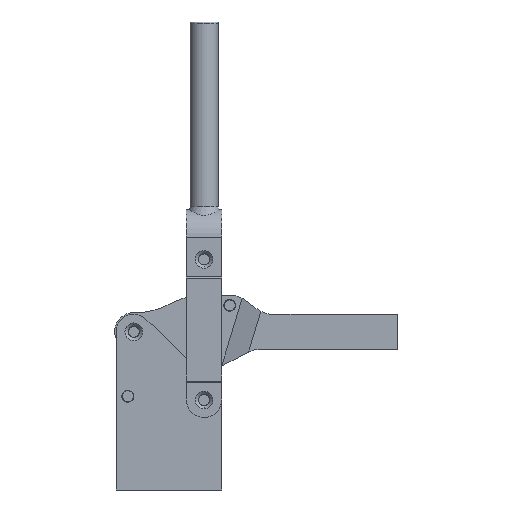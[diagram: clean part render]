
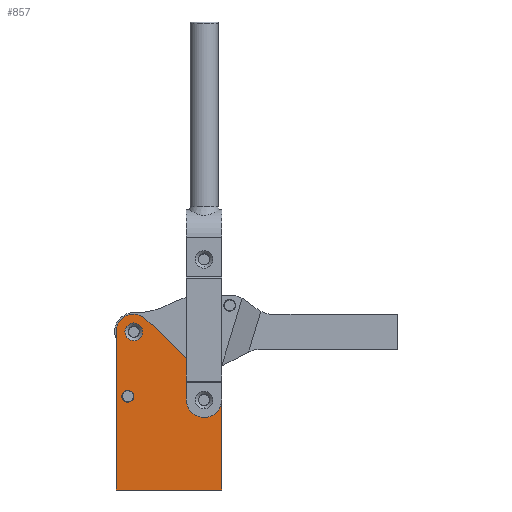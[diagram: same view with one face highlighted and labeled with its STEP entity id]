
A CAD part, front view. The second image highlights one B-rep face of the part: STEP entity #857.
In plain terms, the highlighted planar face has unit normal (0, -1, 0).
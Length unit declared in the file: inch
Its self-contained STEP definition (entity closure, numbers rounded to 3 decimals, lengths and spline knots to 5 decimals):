
#857 = ADVANCED_FACE( '', ( #1119, #1120, #1121, #1122 ), #1123, .F. );
#1119 = FACE_OUTER_BOUND( '', #1517, .T. );
#1120 = FACE_BOUND( '', #1518, .T. );
#1121 = FACE_BOUND( '', #1519, .T. );
#1122 = FACE_BOUND( '', #1520, .T. );
#1123 = PLANE( '', #1521 );
#1517 = EDGE_LOOP( '', ( #2306, #2307, #2308, #2309, #2310, #2311, #2312 ) );
#1518 = EDGE_LOOP( '', ( #2313, #2314, #2315 ) );
#1519 = EDGE_LOOP( '', ( #2316, #2317, #2318 ) );
#1520 = EDGE_LOOP( '', ( #2319, #2320, #2321 ) );
#1521 = AXIS2_PLACEMENT_3D( '', #2322, #2323, #2324 );
#2306 = ORIENTED_EDGE( '', *, *, #3470, .F. );
#2307 = ORIENTED_EDGE( '', *, *, #3468, .F. );
#2308 = ORIENTED_EDGE( '', *, *, #3466, .F. );
#2309 = ORIENTED_EDGE( '', *, *, #3464, .F. );
#2310 = ORIENTED_EDGE( '', *, *, #3440, .F. );
#2311 = ORIENTED_EDGE( '', *, *, #3463, .F. );
#2312 = ORIENTED_EDGE( '', *, *, #3461, .F. );
#2313 = ORIENTED_EDGE( '', *, *, #3471, .T. );
#2314 = ORIENTED_EDGE( '', *, *, #3437, .T. );
#2315 = ORIENTED_EDGE( '', *, *, #3472, .T. );
#2316 = ORIENTED_EDGE( '', *, *, #3473, .T. );
#2317 = ORIENTED_EDGE( '', *, *, #3431, .T. );
#2318 = ORIENTED_EDGE( '', *, *, #3474, .T. );
#2319 = ORIENTED_EDGE( '', *, *, #3475, .T. );
#2320 = ORIENTED_EDGE( '', *, *, #3427, .T. );
#2321 = ORIENTED_EDGE( '', *, *, #3476, .T. );
#2322 = CARTESIAN_POINT( '', ( 0., -0.375, 0. ) );
#2323 = DIRECTION( '', ( 0., 1., 0. ) );
#2324 = DIRECTION( '', ( 1., 0., 0. ) );
#3427 = EDGE_CURVE( '', #4002, #4006, #4008, .T. );
#3431 = EDGE_CURVE( '', #4010, #4014, #4016, .T. );
#3437 = EDGE_CURVE( '', #4027, #4025, #4028, .T. );
#3440 = EDGE_CURVE( '', #4030, #4033, #4034, .T. );
#3461 = EDGE_CURVE( '', #4066, #4068, #4069, .T. );
#3463 = EDGE_CURVE( '', #4068, #4030, #4071, .T. );
#3464 = EDGE_CURVE( '', #4033, #4072, #4073, .T. );
#3466 = EDGE_CURVE( '', #4072, #4075, #4076, .T. );
#3468 = EDGE_CURVE( '', #4075, #4078, #4079, .T. );
#3470 = EDGE_CURVE( '', #4078, #4066, #4081, .T. );
#3471 = EDGE_CURVE( '', #4082, #4027, #4083, .T. );
#3472 = EDGE_CURVE( '', #4025, #4082, #4084, .T. );
#3473 = EDGE_CURVE( '', #4085, #4010, #4086, .T. );
#3474 = EDGE_CURVE( '', #4014, #4085, #4087, .T. );
#3475 = EDGE_CURVE( '', #4088, #4002, #4089, .T. );
#3476 = EDGE_CURVE( '', #4006, #4088, #4090, .T. );
#4002 = VERTEX_POINT( '', #4912 );
#4006 = VERTEX_POINT( '', #4917 );
#4008 = CIRCLE( '', #4920, 0.128 );
#4010 = VERTEX_POINT( '', #4922 );
#4014 = VERTEX_POINT( '', #4927 );
#4016 = CIRCLE( '', #4930, 0.1865 );
#4025 = VERTEX_POINT( '', #4941 );
#4027 = VERTEX_POINT( '', #4944 );
#4028 = CIRCLE( '', #4945, 0.188 );
#4030 = VERTEX_POINT( '', #4948 );
#4033 = VERTEX_POINT( '', #4952 );
#4034 = CIRCLE( '', #4953, 0.375 );
#4066 = VERTEX_POINT( '', #4992 );
#4068 = VERTEX_POINT( '', #4995 );
#4069 = LINE( '', #4996, #4997 );
#4071 = CIRCLE( '', #5000, 0.375 );
#4072 = VERTEX_POINT( '', #5001 );
#4073 = LINE( '', #5002, #5003 );
#4075 = VERTEX_POINT( '', #5006 );
#4076 = CIRCLE( '', #5007, 0.375 );
#4078 = VERTEX_POINT( '', #5010 );
#4079 = LINE( '', #5011, #5012 );
#4081 = LINE( '', #5015, #5016 );
#4082 = VERTEX_POINT( '', #5017 );
#4083 = CIRCLE( '', #5018, 0.188 );
#4084 = CIRCLE( '', #5019, 0.188 );
#4085 = VERTEX_POINT( '', #5020 );
#4086 = CIRCLE( '', #5021, 0.1865 );
#4087 = CIRCLE( '', #5022, 0.1865 );
#4088 = VERTEX_POINT( '', #5023 );
#4089 = CIRCLE( '', #5024, 0.128 );
#4090 = CIRCLE( '', #5025, 0.128 );
#4912 = CARTESIAN_POINT( '', ( 0.25, -0.375, 2.128 ) );
#4917 = CARTESIAN_POINT( '', ( 0.25, -0.375, 1.872 ) );
#4920 = AXIS2_PLACEMENT_3D( '', #6002, #6003, #6004 );
#4922 = CARTESIAN_POINT( '', ( 1.875, -0.375, 2.1055 ) );
#4927 = CARTESIAN_POINT( '', ( 1.875, -0.375, 1.7325 ) );
#4930 = AXIS2_PLACEMENT_3D( '', #6010, #6011, #6012 );
#4941 = CARTESIAN_POINT( '', ( 0.375, -0.375, 3.187 ) );
#4944 = CARTESIAN_POINT( '', ( 0.375, -0.375, 3.563 ) );
#4945 = AXIS2_PLACEMENT_3D( '', #6022, #6023, #6024 );
#4948 = CARTESIAN_POINT( '', ( 0.375, -0.375, 3.75 ) );
#4952 = CARTESIAN_POINT( '', ( 0.63619, -0.375, 3.64408 ) );
#4953 = AXIS2_PLACEMENT_3D( '', #6027, #6028, #6029 );
#4992 = CARTESIAN_POINT( '', ( 0., -0.375, 0. ) );
#4995 = CARTESIAN_POINT( '', ( 0., -0.375, 3.375 ) );
#4996 = CARTESIAN_POINT( '', ( 0., -0.375, 0. ) );
#4997 = VECTOR( '', #6074, 1. );
#5000 = AXIS2_PLACEMENT_3D( '', #6076, #6077, #6078 );
#5001 = CARTESIAN_POINT( '', ( 2.13619, -0.375, 2.18808 ) );
#5002 = CARTESIAN_POINT( '', ( 0.63619, -0.375, 3.64408 ) );
#5003 = VECTOR( '', #6079, 1. );
#5006 = CARTESIAN_POINT( '', ( 2.25, -0.375, 1.919 ) );
#5007 = AXIS2_PLACEMENT_3D( '', #6081, #6082, #6083 );
#5010 = CARTESIAN_POINT( '', ( 2.25, -0.375, 0. ) );
#5011 = CARTESIAN_POINT( '', ( 2.25, -0.375, 1.919 ) );
#5012 = VECTOR( '', #6085, 1. );
#5015 = CARTESIAN_POINT( '', ( 2.25, -0.375, 0. ) );
#5016 = VECTOR( '', #6087, 1. );
#5017 = CARTESIAN_POINT( '', ( 0.187, -0.375, 3.375 ) );
#5018 = AXIS2_PLACEMENT_3D( '', #6088, #6089, #6090 );
#5019 = AXIS2_PLACEMENT_3D( '', #6091, #6092, #6093 );
#5020 = CARTESIAN_POINT( '', ( 1.6885, -0.375, 1.919 ) );
#5021 = AXIS2_PLACEMENT_3D( '', #6094, #6095, #6096 );
#5022 = AXIS2_PLACEMENT_3D( '', #6097, #6098, #6099 );
#5023 = CARTESIAN_POINT( '', ( 0.122, -0.375, 2. ) );
#5024 = AXIS2_PLACEMENT_3D( '', #6100, #6101, #6102 );
#5025 = AXIS2_PLACEMENT_3D( '', #6103, #6104, #6105 );
#6002 = CARTESIAN_POINT( '', ( 0.25, -0.375, 2. ) );
#6003 = DIRECTION( '', ( 0., 1., 0. ) );
#6004 = DIRECTION( '', ( -1., 0., 0. ) );
#6010 = CARTESIAN_POINT( '', ( 1.875, -0.375, 1.919 ) );
#6011 = DIRECTION( '', ( 0., 1., 0. ) );
#6012 = DIRECTION( '', ( -1., 0., 0. ) );
#6022 = CARTESIAN_POINT( '', ( 0.375, -0.375, 3.375 ) );
#6023 = DIRECTION( '', ( 0., 1., 0. ) );
#6024 = DIRECTION( '', ( -1., 0., 0. ) );
#6027 = CARTESIAN_POINT( '', ( 0.375, -0.375, 3.375 ) );
#6028 = DIRECTION( '', ( 0., 1., 0. ) );
#6029 = DIRECTION( '', ( -1., 0., 0. ) );
#6074 = DIRECTION( '', ( 0., 0., 1. ) );
#6076 = CARTESIAN_POINT( '', ( 0.375, -0.375, 3.375 ) );
#6077 = DIRECTION( '', ( 0., 1., 0. ) );
#6078 = DIRECTION( '', ( -1., 0., 0. ) );
#6079 = DIRECTION( '', ( 0.718, 0., -0.697 ) );
#6081 = CARTESIAN_POINT( '', ( 1.875, -0.375, 1.919 ) );
#6082 = DIRECTION( '', ( 0., 1., 0. ) );
#6083 = DIRECTION( '', ( 0.697, 0., 0.718 ) );
#6085 = DIRECTION( '', ( 0., 0., -1. ) );
#6087 = DIRECTION( '', ( -1., 0., 0. ) );
#6088 = CARTESIAN_POINT( '', ( 0.375, -0.375, 3.375 ) );
#6089 = DIRECTION( '', ( 0., 1., 0. ) );
#6090 = DIRECTION( '', ( -1., 0., 0. ) );
#6091 = CARTESIAN_POINT( '', ( 0.375, -0.375, 3.375 ) );
#6092 = DIRECTION( '', ( 0., 1., 0. ) );
#6093 = DIRECTION( '', ( -1., 0., 0. ) );
#6094 = CARTESIAN_POINT( '', ( 1.875, -0.375, 1.919 ) );
#6095 = DIRECTION( '', ( 0., 1., 0. ) );
#6096 = DIRECTION( '', ( -1., 0., 0. ) );
#6097 = CARTESIAN_POINT( '', ( 1.875, -0.375, 1.919 ) );
#6098 = DIRECTION( '', ( 0., 1., 0. ) );
#6099 = DIRECTION( '', ( -1., 0., 0. ) );
#6100 = CARTESIAN_POINT( '', ( 0.25, -0.375, 2. ) );
#6101 = DIRECTION( '', ( 0., 1., 0. ) );
#6102 = DIRECTION( '', ( -1., 0., 0. ) );
#6103 = CARTESIAN_POINT( '', ( 0.25, -0.375, 2. ) );
#6104 = DIRECTION( '', ( 0., 1., 0. ) );
#6105 = DIRECTION( '', ( -1., 0., 0. ) );
